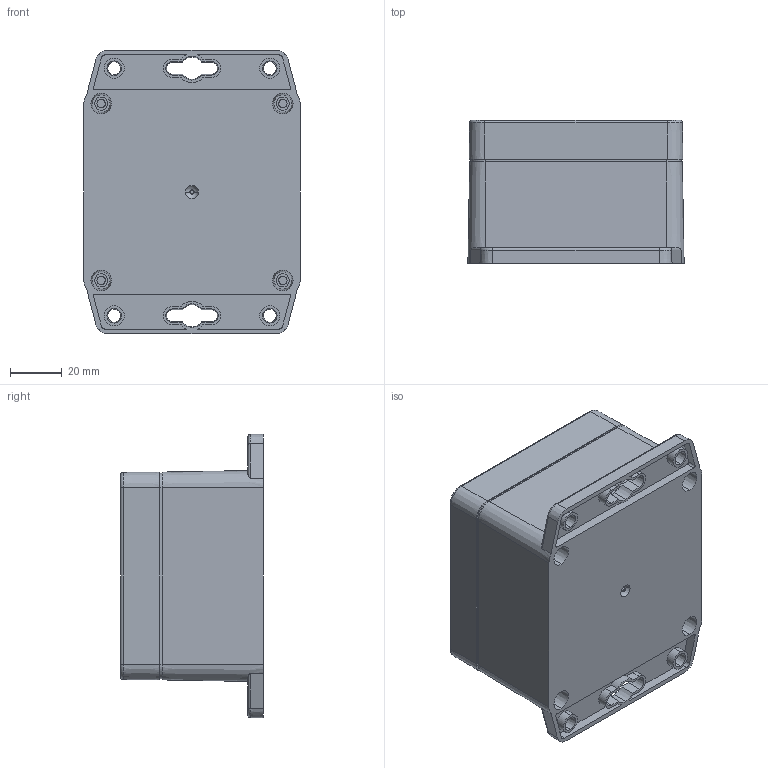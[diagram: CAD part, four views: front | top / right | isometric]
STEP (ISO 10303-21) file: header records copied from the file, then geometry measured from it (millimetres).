
FILE_DESCRIPTION (( 'STEP AP214' ), '1' );
FILE_NAME ('W_-31F.STEP', '2016-06-21T15:17:29', ( '' ), ( '' ), 'SwSTEP 2.0', 'SolidWorks 2015', '' );
FILE_SCHEMA (( 'AUTOMOTIVE_DESIGN' ));
Length unit declared in the file: inch
Products named in the file (6): SCREWS-SSM4-20-4; W_-31BF_WA-31BF*16; SCREWS-SSM4-20_SCREWS-SSM4-20; W_-31C_WA-31C*16; W_-31B-PCB_W_-31B-PCB; W_-31F
Assembly tree (8 placements, depth 3):
  W_-31F
    W_-31BF_WA-31BF*16
    W_-31C_WA-31C*16
    SCREWS-SSM4-20-4
      SCREWS-SSM4-20_SCREWS-SSM4-20  x4
    W_-31B-PCB_W_-31B-PCB
Bounding box: 83.37 x 55.13 x 109.4 mm (x, y, z)
Volume: 124123.2 mm3; surface area: 92869.3 mm2
Topology: 12 solids, 12 shells, 970 faces, 2405 edges, 1500 vertices
Faces by surface type: plane 303, cylinder 293, cone 194, bspline 140, torus 36, sphere 4
Entity records: 24164 total; most frequent: CARTESIAN_POINT 6146, DIRECTION 3707, ORIENTED_EDGE 3586, EDGE_CURVE 1793, AXIS2_PLACEMENT_3D 1440, VERTEX_POINT 1149, EDGE_LOOP 836, LINE 827
